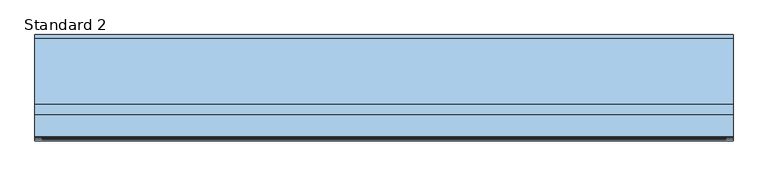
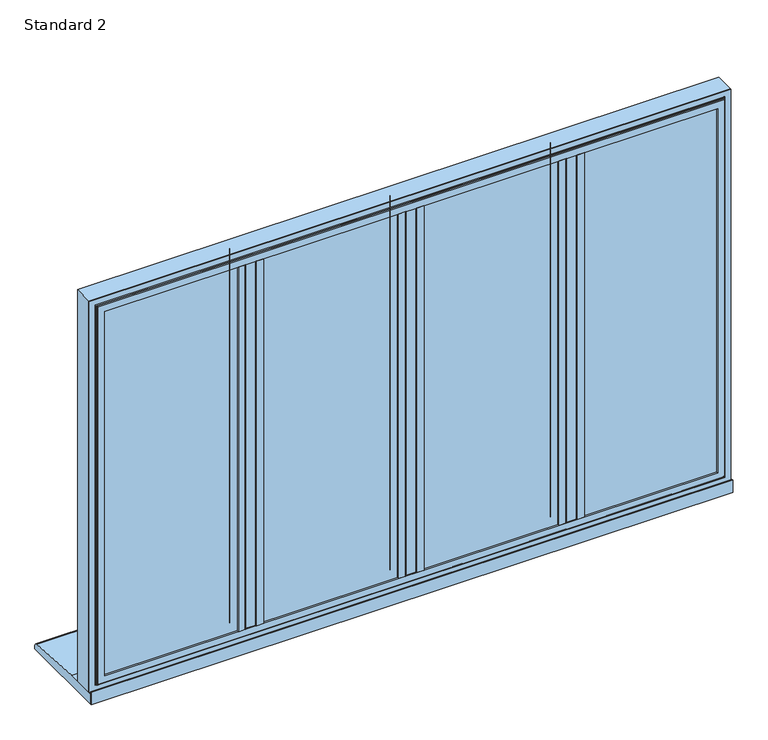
"""IFC4 building model written with IfcOpenShell, lengths in millimetres: window geometry, SMARTS_AlithermHeritage : Standard 2."""

import ifcopenshell
import ifcopenshell.guid

model = None  # the IFC model being written
_history = None  # IfcOwnerHistory: only IFC2X3 demands one
_inside = {}  # id of a spatial element -> (the spatial element, [elements in it])
_under = {}  # id of a project, library or spatial element -> (it, [spatial elements below it])
_declared = {}  # id of a project -> (the project, [libraries it declares])
_typed = {}  # id of a type object -> (the type object, [elements of that type])
_made_of = {}  # id of a material, layer set ... -> (it, [elements and type objects made of it])


def new_model(schema):
    """Start an empty IFC model of exactly this schema.

    Asked for "IFC4X3", IfcOpenShell would pick the latest addendum, in which some entities
    have other attributes; the version numbers below select the first issue.
    IFC2X3 requires an IfcOwnerHistory on every rooted entity: one is made here for all.
    """
    global model, _history
    if schema == "IFC4X3":
        model = ifcopenshell.file(schema_version=(4, 3, 0, 0))
    else:
        model = ifcopenshell.file(schema=schema)
    _inside.clear()
    _under.clear()
    _declared.clear()
    _typed.clear()
    _made_of.clear()
    _history = None
    if model.schema == "IFC2X3":
        org = make("IfcOrganization", Name="unknown")
        user = make(
            "IfcPersonAndOrganization",
            ThePerson=make("IfcPerson", FamilyName="unknown"),
            TheOrganization=org,
        )
        app = make(
            "IfcApplication",
            ApplicationDeveloper=org,
            Version="unknown",
            ApplicationFullName="unknown",
            ApplicationIdentifier="unknown",
        )
        _history = make(
            "IfcOwnerHistory",
            OwningUser=user,
            OwningApplication=app,
            ChangeAction="ADDED",
            CreationDate=0,
        )
    return model


def make(cls, **values):
    """One entity of the class cls with the attributes given. An attribute that is None is left unset."""
    return model.create_entity(
        cls, **{name: value for name, value in values.items() if value is not None}
    )


def rooted(cls, **values):
    """An entity with a GlobalId (a new one), such as an element, a storey or a relation."""
    return make(cls, GlobalId=ifcopenshell.guid.new(), OwnerHistory=_history, **values)


def si_unit(unit_type, name, prefix=None):
    """IfcSIUnit, for example si_unit("LENGTHUNIT", "METRE", prefix="MILLI")."""
    return make("IfcSIUnit", UnitType=unit_type, Prefix=prefix, Name=name)


def assignment(units):
    """IfcUnitAssignment: the units of a project."""
    return None if units is None else make("IfcUnitAssignment", Units=units)


def point(xyz):
    """IfcCartesianPoint."""
    return None if xyz is None else make("IfcCartesianPoint", Coordinates=xyz)


def direction(xyz):
    """IfcDirection."""
    return None if xyz is None else make("IfcDirection", DirectionRatios=xyz)


def frame(location, z_axis=None, x_axis=None):
    """IfcAxis2Placement3D, a coordinate frame: its origin and axes. An axis left out is left unset."""
    return make(
        "IfcAxis2Placement3D",
        Location=point(location),
        Axis=direction(z_axis),
        RefDirection=direction(x_axis),
    )


def frame_2d(location, x_axis=None):
    """IfcAxis2Placement2D, a coordinate frame in the plane: its origin and x axis."""
    return make(
        "IfcAxis2Placement2D", Location=point(location), RefDirection=direction(x_axis)
    )


def origin():
    """The frame at (0, 0, 0) with its axes left unset."""
    return frame((0.0, 0.0, 0.0))


def place(relative_to, where):
    """IfcLocalPlacement: puts the frame where relative to a parent placement (None: the world)."""
    return make(
        "IfcLocalPlacement", PlacementRelTo=relative_to, RelativePlacement=where
    )


def context(
    kind, dimensions, precision=None, world=None, true_north=None, identifier=None
):
    """IfcGeometricRepresentationContext, for example the 3D "Model" context."""
    return make(
        "IfcGeometricRepresentationContext",
        ContextIdentifier=identifier,
        ContextType=kind,
        CoordinateSpaceDimension=dimensions,
        Precision=precision,
        WorldCoordinateSystem=world,
        TrueNorth=true_north,
    )


def project(units=None, contexts=None):
    """IfcProject with its units and contexts."""
    return rooted(
        "IfcProject",
        Name="project",
        RepresentationContexts=contexts,
        UnitsInContext=assignment(units),
    )


def spatial(cls, under=None, at=None, **own):
    """A site, building, storey or space (cls), placed at a placement, below another one or the project."""
    s = rooted(cls, ObjectPlacement=at, **own)
    if under is not None:
        _under.setdefault(under.id(), (under, []))[1].append(s)
    return s


def polyline(points):
    """IfcPolyline through the points."""
    return make("IfcPolyline", Points=[point(p) for p in points])


def circle_curve(where, radius):
    """IfcCircle in the frame where."""
    return make("IfcCircle", Position=where, Radius=radius)


def ellipse_curve(where, semi_axis1, semi_axis2):
    """IfcEllipse in the frame where."""
    return make(
        "IfcEllipse", Position=where, SemiAxis1=semi_axis1, SemiAxis2=semi_axis2
    )


def trimmed(basis, trim1, trim2, sense, master):
    """IfcTrimmedCurve: the piece of a basis curve between two trims."""
    return make(
        "IfcTrimmedCurve",
        BasisCurve=basis,
        Trim1=trim1,
        Trim2=trim2,
        SenseAgreement=sense,
        MasterRepresentation=master,
    )


def segment(curve, same_sense, transition):
    """IfcCompositeCurveSegment."""
    return make(
        "IfcCompositeCurveSegment",
        Transition=transition,
        SameSense=same_sense,
        ParentCurve=curve,
    )


def composite_curve(segments, self_intersect=None):
    """IfcCompositeCurve: segments joined end to end."""
    return make("IfcCompositeCurve", Segments=segments, SelfIntersect=self_intersect)


def outline(outer, holes=None, kind="AREA"):
    """IfcArbitraryClosedProfileDef: a profile drawn as a closed curve; with holes, ...WithVoids."""
    if holes is None:
        return make("IfcArbitraryClosedProfileDef", ProfileType=kind, OuterCurve=outer)
    return make(
        "IfcArbitraryProfileDefWithVoids",
        ProfileType=kind,
        OuterCurve=outer,
        InnerCurves=holes,
    )


def extrude(swept, where, along, depth):
    """IfcExtrudedAreaSolid: the profile swept, set in the frame where, extruded along a direction by depth."""
    return make(
        "IfcExtrudedAreaSolid",
        SweptArea=swept,
        Position=where,
        ExtrudedDirection=direction(along),
        Depth=depth,
    )


def faces_of(points, faces, orient=None, outer=None):
    """IfcFace entities. A face is a list of loops; a loop is a list of indices into points, from 0.

    orient and outer hold one flag for each loop. By default every Orientation is true, the
    first loop of a face is its IfcFaceOuterBound and the others are IfcFaceBound.
    """
    made = []
    for i, loops in enumerate(faces):
        bounds = []
        for j, loop in enumerate(loops):
            is_outer = j == 0 if outer is None else outer[i][j]
            bounds.append(
                make(
                    "IfcFaceOuterBound" if is_outer else "IfcFaceBound",
                    Bound=make("IfcPolyLoop", Polygon=[points[k] for k in loop]),
                    Orientation=True if orient is None else orient[i][j],
                )
            )
        made.append(make("IfcFace", Bounds=bounds))
    return made


def faceted_brep(points, faces, orient=None, outer=None, voids=None):
    """IfcFacetedBrep: a solid bounded by flat faces; with voids (closed shells), ...WithVoids."""
    shared = [point(p) for p in points]
    hull = make("IfcClosedShell", CfsFaces=faces_of(shared, faces, orient, outer))
    if voids is None:
        return make("IfcFacetedBrep", Outer=hull)
    return make(
        "IfcFacetedBrepWithVoids",
        Outer=hull,
        Voids=[
            make(cls, CfsFaces=faces_of(shared, fs, o, b)) for cls, fs, o, b in voids
        ],
    )


def shape(context_of_items, identifier, shape_type, items):
    """IfcShapeRepresentation: the items that make up one representation, for example the "Body"."""
    return make(
        "IfcShapeRepresentation",
        ContextOfItems=context_of_items,
        RepresentationIdentifier=identifier,
        RepresentationType=shape_type,
        Items=items,
    )


def source(mapping_origin, context_of_items, identifier, shape_type, items):
    """IfcRepresentationMap: a shape defined once, which mapped items show again and again."""
    return make(
        "IfcRepresentationMap",
        MappingOrigin=mapping_origin,
        MappedRepresentation=shape(context_of_items, identifier, shape_type, items),
    )


def transform(
    local_origin,
    x_axis=None,
    y_axis=None,
    z_axis=None,
    scale=None,
    scale2=None,
    scale3=None,
    uniform=True,
):
    """IfcCartesianTransformationOperator3D, or its non-uniform kind. x_axis, y_axis, z_axis: its Axis1, 2, 3."""
    if uniform:
        return make(
            "IfcCartesianTransformationOperator3D",
            Axis1=direction(x_axis),
            Axis2=direction(y_axis),
            LocalOrigin=point(local_origin),
            Scale=scale,
            Axis3=direction(z_axis),
        )
    return make(
        "IfcCartesianTransformationOperator3DnonUniform",
        Axis1=direction(x_axis),
        Axis2=direction(y_axis),
        LocalOrigin=point(local_origin),
        Scale=scale,
        Axis3=direction(z_axis),
        Scale2=scale2,
        Scale3=scale3,
    )


def mapped(mapping_source, mapping_target):
    """IfcMappedItem: shows the shape of a source again, moved by a transform."""
    return make(
        "IfcMappedItem", MappingSource=mapping_source, MappingTarget=mapping_target
    )


def made_of(thing, what):
    """Note that an element or type object is made of a material, layer set ...; save() writes the relation."""
    if what is not None:
        _made_of.setdefault(what.id(), (what, []))[1].append(thing)
    return thing


def element(
    cls,
    number,
    at=None,
    inside=None,
    cuts=None,
    type_object=None,
    material=None,
    context=None,
    identifier="Body",
    shape_type=None,
    held_by="IfcProductDefinitionShape",
    body=None,
    shapes=None,
    **own,
):
    """One element of the class cls, such as IfcWall. Its Tag is "e" and its number.

    at: its placement. inside: the storey or other place that contains it. cuts: it is an
    opening in that element (IfcRelVoidsElement). A single representation is given by context,
    identifier, shape_type and body (its items); several are given by shapes. held_by: the class
    of the entity that holds the representations. save() writes the other relations.
    """
    e = rooted(cls, Tag="e%d" % number, ObjectPlacement=at, **own)
    if body is not None:
        shapes = [shape(context, identifier, shape_type, body)]
    if shapes is not None:
        e.Representation = make(held_by, Representations=shapes)
    if inside is not None:
        _inside.setdefault(inside.id(), (inside, []))[1].append(e)
    if cuts is not None:
        rooted(
            "IfcRelVoidsElement", RelatingBuildingElement=cuts, RelatedOpeningElement=e
        )
    if type_object is not None:
        _typed.setdefault(type_object.id(), (type_object, []))[1].append(e)
    return made_of(e, material)


def aggregate(whole, parts):
    """IfcRelAggregates: a whole, such as a stair, and the parts it consists of."""
    return rooted("IfcRelAggregates", RelatingObject=whole, RelatedObjects=parts)


def save(model, path):
    """Write the relations noted so far, then the file.

    IfcRelAggregates (storeys below a building ...), IfcRelContainedInSpatialStructure (elements
    in a storey), IfcRelDefinesByType, IfcRelAssociatesMaterial and IfcRelDeclares: one each for
    every whole, place, type object, material and project.
    """
    for whole, parts in _under.values():
        aggregate(whole, parts)
    for where, things in _inside.values():
        rooted(
            "IfcRelContainedInSpatialStructure",
            RelatedElements=things,
            RelatingStructure=where,
        )
    for kind, things in _typed.values():
        rooted("IfcRelDefinesByType", RelatedObjects=things, RelatingType=kind)
    for what, things in _made_of.values():
        rooted("IfcRelAssociatesMaterial", RelatedObjects=things, RelatingMaterial=what)
    for by, libraries in _declared.values():
        rooted("IfcRelDeclares", RelatingContext=by, RelatedDefinitions=libraries)
    model.write(path)


def plane_surface(at):
    """IfcPlane: the flat surface through the origin of the frame at, square to its z axis."""
    return make("IfcPlane", Position=at)


def cylinder_surface(at, radius):
    """IfcCylindricalSurface: all points at the distance radius from the z axis of the frame at."""
    return make("IfcCylindricalSurface", Position=at, Radius=radius)


def revolved_surface(curve, axis_point, axis_direction):
    """IfcSurfaceOfRevolution: the curve turned about the line through axis_point along axis_direction."""
    return make(
        "IfcSurfaceOfRevolution",
        SweptCurve=make("IfcArbitraryOpenProfileDef", ProfileType="CURVE", Curve=curve),
        AxisPosition=make("IfcAxis1Placement", Location=point(axis_point), Axis=direction(axis_direction)),
    )


def advanced_brep(points, edges, surfaces, faces):
    """IfcAdvancedBrep: a solid bounded by faces that lie on surfaces and meet in shared edges.

    An edge is (start, end): straight between two places in points (the first is 0);
    or (start, end, curve); or (start, end, curve, False) where it runs against its curve.
    A face is (place in surfaces, loops), or (place, loops, False) where it looks against
    its surface's normal. A loop lists edges by number (the first is 1), with a minus sign
    where the edge is run from its end to its start. The first loop is the outer one.
    """
    corners = [point(p) for p in points]
    vertices = [make("IfcVertexPoint", VertexGeometry=c) for c in corners]
    made = []
    for start, end, *more in edges:
        made.append(
            make(
                "IfcEdgeCurve",
                EdgeStart=vertices[start],
                EdgeEnd=vertices[end],
                EdgeGeometry=more[0] if more else make("IfcPolyline", Points=[corners[start], corners[end]]),
                SameSense=more[1] if len(more) > 1 else True,
            )
        )
    hull = []
    for where, loops, *sense in faces:
        bounds = []
        for j, loop in enumerate(loops):
            ring = [make("IfcOrientedEdge", EdgeElement=made[abs(k) - 1], Orientation=k > 0) for k in loop]
            bounds.append(
                make(
                    "IfcFaceOuterBound" if j == 0 else "IfcFaceBound",
                    Bound=make("IfcEdgeLoop", EdgeList=ring),
                    Orientation=True,
                )
            )
        hull.append(make("IfcAdvancedFace", Bounds=bounds, FaceSurface=surfaces[where], SameSense=sense[0] if sense else True))
    return make("IfcAdvancedBrep", Outer=make("IfcClosedShell", CfsFaces=hull))


def standard_2_e56fe06b(model_context):
    return source(origin(), model_context, "Body", "SolidModel", [
        extrude(outline(polyline([(-383.6941456, 95.2798432), (-356.3058544, 95.2798432), (-356.3058544, 47.279476), (-383.6941456, 47.279476), (-383.6941456, 95.2798432)])), frame((0.0, 0.0, 652.6941456), z_axis=(0.0, 0.0, 1.0), x_axis=(1.0, 0.0, 0.0)), (0.0, 0.0, 1.0), 919.6117089),
        extrude(outline(composite_curve([segment(polyline([(-399.0, 47.279476), (-341.0, 47.279476), (-341.0, 43.2798432), (-357.0, 43.2798432)]), True, "CONTINUOUS"), segment(trimmed(circle_curve(frame_2d((-357.0, 44.2798432)), 1.0), [point((-357.0, 43.2798432))], [point((-358.0, 44.2798432))], False, "CARTESIAN"), True, "CONTINUOUS"), segment(polyline([(-358.0, 44.2798432), (-358.0, 45.7798432), (-382.0, 45.7798432), (-382.0, 44.2798432)]), True, "CONTINUOUS"), segment(trimmed(circle_curve(frame_2d((-383.0, 44.2798432)), 1.0), [point((-382.0, 44.2798432))], [point((-383.0, 43.2798432))], False, "CARTESIAN"), True, "CONTINUOUS"), segment(polyline([(-383.0, 43.2798432), (-399.0, 43.2798432), (-399.0, 47.279476)]), True, "CONTINUOUS")], self_intersect=False)), frame((0.0, 0.0, 668.0), z_axis=(0.0, 0.0, 1.0), x_axis=(1.0, 0.0, 0.0)), (0.0, 0.0, 1.0), 889.0),
        extrude(outline(polyline([(-13.6941456, 95.2798432), (13.6941456, 95.2798432), (13.6941456, 47.279476), (-13.6941456, 47.279476), (-13.6941456, 95.2798432)])), frame((0.0, 0.0, 652.6941456), z_axis=(0.0, 0.0, 1.0), x_axis=(1.0, 0.0, 0.0)), (0.0, 0.0, 1.0), 919.6117089),
        extrude(outline(composite_curve([segment(polyline([(-29.0, 47.279476), (29.0, 47.279476), (29.0, 43.2798432), (13.0, 43.2798432)]), True, "CONTINUOUS"), segment(trimmed(circle_curve(frame_2d((13.0, 44.2798432)), 1.0), [point((13.0, 43.2798432))], [point((12.0, 44.2798432))], False, "CARTESIAN"), True, "CONTINUOUS"), segment(polyline([(12.0, 44.2798432), (12.0, 45.7798432), (-12.0, 45.7798432), (-12.0, 44.2798432)]), True, "CONTINUOUS"), segment(trimmed(circle_curve(frame_2d((-13.0, 44.2798432)), 1.0), [point((-12.0, 44.2798432))], [point((-13.0, 43.2798432))], False, "CARTESIAN"), True, "CONTINUOUS"), segment(polyline([(-13.0, 43.2798432), (-29.0, 43.2798432), (-29.0, 47.279476)]), True, "CONTINUOUS")], self_intersect=False)), frame((0.0, 0.0, 668.0), z_axis=(0.0, 0.0, 1.0), x_axis=(1.0, 0.0, 0.0)), (0.0, 0.0, 1.0), 889.0),
        extrude(outline(polyline([(356.3058544, 95.2798432), (383.6941456, 95.2798432), (383.6941456, 47.279476), (356.3058544, 47.279476), (356.3058544, 95.2798432)])), frame((0.0, 0.0, 652.6941456), z_axis=(0.0, 0.0, 1.0), x_axis=(1.0, 0.0, 0.0)), (0.0, 0.0, 1.0), 919.6117089),
        extrude(outline(composite_curve([segment(polyline([(341.0, 47.279476), (399.0, 47.279476), (399.0, 43.2798432), (383.0, 43.2798432)]), True, "CONTINUOUS"), segment(trimmed(circle_curve(frame_2d((383.0, 44.2798432)), 1.0), [point((383.0, 43.2798432))], [point((382.0, 44.2798432))], False, "CARTESIAN"), True, "CONTINUOUS"), segment(polyline([(382.0, 44.2798432), (382.0, 45.7798432), (358.0, 45.7798432), (358.0, 44.2798432)]), True, "CONTINUOUS"), segment(trimmed(circle_curve(frame_2d((357.0, 44.2798432)), 1.0), [point((358.0, 44.2798432))], [point((357.0, 43.2798432))], False, "CARTESIAN"), True, "CONTINUOUS"), segment(polyline([(357.0, 43.2798432), (341.0, 43.2798432), (341.0, 47.279476)]), True, "CONTINUOUS")], self_intersect=False)), frame((0.0, 0.0, 668.0), z_axis=(0.0, 0.0, 1.0), x_axis=(1.0, 0.0, 0.0)), (0.0, 0.0, 1.0), 889.0),
        extrude(outline(polyline([(-717.0, 75.2798432), (-389.0, 75.2798432), (-389.0, 71.2798432), (-717.0, 71.2798432), (-717.0, 75.2798432)])), frame((0.0, 0.0, 658.0), z_axis=(0.0, 0.0, 1.0), x_axis=(1.0, 0.0, 0.0)), (0.0, 0.0, 1.0), 909.0),
        extrude(outline(polyline([(-717.0, 55.2798432), (-389.0, 55.2798432), (-389.0, 51.2798432), (-717.0, 51.2798432), (-717.0, 55.2798432)])), frame((0.0, 0.0, 658.0), z_axis=(0.0, 0.0, 1.0), x_axis=(1.0, 0.0, 0.0)), (0.0, 0.0, 1.0), 909.0),
        extrude(outline(polyline([(1567.0, -717.0), (658.0, -717.0), (658.0, -389.0), (1567.0, -389.0), (1567.0, -717.0)]), holes=[polyline([(1557.0, -399.0), (668.0, -399.0), (668.0, -707.0), (1557.0, -707.0), (1557.0, -399.0)])]), frame((0.0, 55.2798432, 0.0), z_axis=(0.0, 1.0, 0.0), x_axis=(0.0, 0.0, 1.0)), (0.0, 0.0, 1.0), 16.0),
        faceted_brep([(-389.1851151, 95.2798432, 1566.8148849), (-399.0, 78.2798098, 1557.0), (-707.0, 78.2798098, 1557.0), (-716.8148849, 95.2798432, 1566.8148849), (-383.6297324, 78.2798098, 1572.3702676), (-383.6297324, 95.2798432, 1572.3702676), (-722.3702676, 95.2798432, 1572.3702676), (-722.3702676, 78.2798098, 1572.3702676), (-722.3702676, 78.2798098, 652.6297324), (-722.3702676, 95.2798432, 652.6297324), (-383.6297324, 95.2798432, 652.6297324), (-383.6297324, 78.2798098, 652.6297324), (-716.8148849, 95.2798432, 658.1851151), (-389.1851151, 95.2798432, 658.1851151), (-399.0, 78.2798098, 668.0), (-707.0, 78.2798098, 668.0)], [[[0, 1, 2, 3]], [[4, 5, 6, 7]], [[8, 9, 10, 11]], [[5, 10, 9, 6], [3, 12, 13, 0]], [[7, 8, 11, 4], [1, 14, 15, 2]], [[3, 2, 15, 12]], [[7, 6, 9, 8]], [[12, 15, 14, 13]], [[13, 14, 1, 0]], [[11, 10, 5, 4]]]),
        extrude(outline(polyline([(-351.0, 75.2798432), (-19.0, 75.2798432), (-19.0, 71.2798432), (-351.0, 71.2798432), (-351.0, 75.2798432)])), frame((0.0, 0.0, 658.0), z_axis=(0.0, 0.0, 1.0), x_axis=(1.0, 0.0, 0.0)), (0.0, 0.0, 1.0), 909.0),
        extrude(outline(polyline([(-351.0, 55.2798432), (-19.0, 55.2798432), (-19.0, 51.2798432), (-351.0, 51.2798432), (-351.0, 55.2798432)])), frame((0.0, 0.0, 658.0), z_axis=(0.0, 0.0, 1.0), x_axis=(1.0, 0.0, 0.0)), (0.0, 0.0, 1.0), 909.0),
        extrude(outline(polyline([(1567.0, -351.0), (658.0, -351.0), (658.0, -19.0), (1567.0, -19.0), (1567.0, -351.0)]), holes=[polyline([(1557.0, -29.0), (668.0, -29.0), (668.0, -341.0), (1557.0, -341.0), (1557.0, -29.0)])]), frame((0.0, 55.2798432, 0.0), z_axis=(0.0, 1.0, 0.0), x_axis=(0.0, 0.0, 1.0)), (0.0, 0.0, 1.0), 16.0),
        faceted_brep([(-19.1851151, 95.2798432, 1566.8148849), (-29.0, 78.2798098, 1557.0), (-341.0, 78.2798098, 1557.0), (-350.8148849, 95.2798432, 1566.8148849), (-13.6297324, 78.2798098, 1572.3702676), (-13.6297324, 95.2798432, 1572.3702676), (-356.3702676, 95.2798432, 1572.3702676), (-356.3702676, 78.2798098, 1572.3702676), (-356.3702676, 78.2798098, 652.6297324), (-356.3702676, 95.2798432, 652.6297324), (-13.6297324, 95.2798432, 652.6297324), (-13.6297324, 78.2798098, 652.6297324), (-350.8148849, 95.2798432, 658.1851151), (-19.1851151, 95.2798432, 658.1851151), (-29.0, 78.2798098, 668.0), (-341.0, 78.2798098, 668.0)], [[[0, 1, 2, 3]], [[4, 5, 6, 7]], [[8, 9, 10, 11]], [[5, 10, 9, 6], [3, 12, 13, 0]], [[7, 8, 11, 4], [1, 14, 15, 2]], [[3, 2, 15, 12]], [[7, 6, 9, 8]], [[12, 15, 14, 13]], [[13, 14, 1, 0]], [[11, 10, 5, 4]]]),
        extrude(outline(polyline([(19.0, 75.2798432), (351.0, 75.2798432), (351.0, 71.2798432), (19.0, 71.2798432), (19.0, 75.2798432)])), frame((0.0, 0.0, 658.0), z_axis=(0.0, 0.0, 1.0), x_axis=(1.0, 0.0, 0.0)), (0.0, 0.0, 1.0), 909.0),
        extrude(outline(polyline([(19.0, 55.2798432), (351.0, 55.2798432), (351.0, 51.2798432), (19.0, 51.2798432), (19.0, 55.2798432)])), frame((0.0, 0.0, 658.0), z_axis=(0.0, 0.0, 1.0), x_axis=(1.0, 0.0, 0.0)), (0.0, 0.0, 1.0), 909.0),
        extrude(outline(polyline([(1567.0, 19.0), (658.0, 19.0), (658.0, 351.0), (1567.0, 351.0), (1567.0, 19.0)]), holes=[polyline([(1557.0, 341.0), (668.0, 341.0), (668.0, 29.0), (1557.0, 29.0), (1557.0, 341.0)])]), frame((0.0, 55.2798432, 0.0), z_axis=(0.0, 1.0, 0.0), x_axis=(0.0, 0.0, 1.0)), (0.0, 0.0, 1.0), 16.0),
        faceted_brep([(350.8148849, 95.2798432, 1566.8148849), (341.0, 78.2798098, 1557.0), (29.0, 78.2798098, 1557.0), (19.1851151, 95.2798432, 1566.8148849), (356.3702676, 78.2798098, 1572.3702676), (356.3702676, 95.2798432, 1572.3702676), (13.6297324, 95.2798432, 1572.3702676), (13.6297324, 78.2798098, 1572.3702676), (13.6297324, 78.2798098, 652.6297324), (13.6297324, 95.2798432, 652.6297324), (356.3702676, 95.2798432, 652.6297324), (356.3702676, 78.2798098, 652.6297324), (19.1851151, 95.2798432, 658.1851151), (350.8148849, 95.2798432, 658.1851151), (341.0, 78.2798098, 668.0), (29.0, 78.2798098, 668.0)], [[[0, 1, 2, 3]], [[4, 5, 6, 7]], [[8, 9, 10, 11]], [[5, 10, 9, 6], [3, 12, 13, 0]], [[7, 8, 11, 4], [1, 14, 15, 2]], [[3, 2, 15, 12]], [[7, 6, 9, 8]], [[12, 15, 14, 13]], [[13, 14, 1, 0]], [[11, 10, 5, 4]]]),
        extrude(outline(polyline([(1590.0, 740.0), (1590.0, -740.0), (635.0, -740.0), (635.0, 740.0), (1590.0, 740.0)]), holes=[polyline([(652.7000182, 722.2999818), (652.7000182, -722.2999818), (1572.2999818, -722.2999818), (1572.2999818, 722.2999818), (652.7000182, 722.2999818)])]), frame((0.0, 50.279857, 0.0), z_axis=(0.0, 1.0, 0.0), x_axis=(0.0, 0.0, 1.0)), (0.0, 0.0, 1.0), 44.9999962),
        advanced_brep(
        [(707.0, 43.2798432, 1557.0), (707.0, 47.2798432, 1557.0), (707.0, 47.2798432, 668.0), (707.0, 43.2798432, 668.0), (740.0, 50.279857, 1590.0), (740.0, 48.279857, 1590.0), (740.0, 48.279857, 635.0), (740.0, 50.279857, 635.0), (722.4999818, 43.2798432, 1572.4999818), (-722.4999818, 43.2798432, 1572.4999818), (-722.4999818, 43.2798432, 652.5000182), (722.4999818, 43.2798432, 652.5000182), (-707.0, 43.2798432, 668.0), (-707.0, 43.2798432, 1557.0), (-740.0, 50.279857, 1590.0), (-740.0, 48.279857, 1590.0), (-740.0, 50.279857, 635.0), (722.2999818, 50.279857, 1572.2999818), (-722.2999818, 50.279857, 1572.2999818), (-722.2999818, 50.279857, 652.7000182), (722.2999818, 50.279857, 652.7000182), (-707.0, 47.2798432, 1557.0), (-707.0, 47.2798432, 668.0), (-740.0, 48.279857, 635.0), (-722.2999818, 47.2798432, 1572.2999818), (722.2999818, 47.2798432, 1572.2999818), (722.2999818, 47.2798432, 652.7000182), (724.4999818, 46.779857, 650.5000182), (724.4999818, 45.2798432, 650.5000182), (-724.4999818, 45.2798432, 650.5000182), (-724.4999818, 46.779857, 650.5000182), (724.4999818, 46.779857, 1574.4999818), (724.4999818, 45.2798432, 1574.4999818), (-722.2999818, 47.2798432, 652.7000182), (-724.4999818, 45.2798432, 1574.4999818), (-724.4999818, 46.779857, 1574.4999818), (725.9999818, 48.279857, 1575.9999818), (725.9999818, 48.279857, 649.0000182), (-725.9999818, 48.279857, 649.0000182), (-725.9999818, 48.279857, 1575.9999818)],
        [
            (0, 1),
            (1, 2),
            (2, 3),
            (3, 0),
            (4, 5),
            (5, 6),
            (6, 7),
            (7, 4),
            (8, 9),
            (9, 10),
            (10, 11),
            (11, 8),
            (3, 12),
            (12, 13),
            (13, 0),
            (14, 15),
            (15, 5),
            (4, 14),
            (7, 16),
            (16, 14),
            (17, 18),
            (18, 19),
            (19, 20),
            (20, 17),
            (13, 21),
            (21, 1),
            (2, 22),
            (22, 12),
            (22, 21),
            (6, 23),
            (23, 16),
            (23, 15),
            (24, 18),
            (17, 25),
            (25, 24),
            (20, 26),
            (26, 25),
            (27, 28),
            (28, 29),
            (29, 30),
            (30, 27),
            (31, 32),
            (32, 28),
            (27, 31),
            (19, 33),
            (33, 26),
            (24, 33),
            (29, 34),
            (34, 35),
            (35, 30),
            (34, 32),
            (31, 35),
            (36, 31, ellipse_curve(frame((725.9999818, 46.779857, 1575.9999818), z_axis=(-0.7071067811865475, 0.0, 0.7071067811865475), x_axis=(-0.7071067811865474, 0.0, -0.7071067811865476)), 2.1213203, 1.5)),
            (27, 37, ellipse_curve(frame((725.9999818, 46.779857, 649.0000182), z_axis=(-0.7071067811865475, 0.0, -0.7071067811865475), x_axis=(0.7071067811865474, 0.0, -0.7071067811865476)), 2.1213203, 1.5)),
            (37, 36),
            (30, 38, ellipse_curve(frame((-725.9999818, 46.779857, 649.0000182), z_axis=(-0.7071067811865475, 0.0, 0.7071067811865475), x_axis=(-0.7071067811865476, 0.0, -0.7071067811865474)), 2.1213203, 1.5)),
            (38, 37),
            (35, 39, ellipse_curve(frame((-725.9999818, 46.779857, 1575.9999818), z_axis=(0.7071067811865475, 0.0, 0.7071067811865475), x_axis=(-0.7071067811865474, 0.0, 0.7071067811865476)), 2.1213203, 1.5)),
            (39, 38),
            (36, 39),
            (32, 8, ellipse_curve(frame((722.4999818, 45.2798432, 1572.4999818), z_axis=(0.7071067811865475, 0.0, -0.7071067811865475), x_axis=(0.7071067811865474, 0.0, 0.7071067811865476)), 2.8284271, 2.0)),
            (11, 28, ellipse_curve(frame((722.4999818, 45.2798432, 652.5000182), z_axis=(0.7071067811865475, 0.0, 0.7071067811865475), x_axis=(-0.7071067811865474, 0.0, 0.7071067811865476)), 2.8284271, 2.0)),
            (10, 29, ellipse_curve(frame((-722.4999818, 45.2798432, 652.5000182), z_axis=(0.7071067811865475, 0.0, -0.7071067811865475), x_axis=(0.7071067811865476, 0.0, 0.7071067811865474)), 2.8284271, 2.0)),
            (9, 34, ellipse_curve(frame((-722.4999818, 45.2798432, 1572.4999818), z_axis=(-0.7071067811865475, 0.0, -0.7071067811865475), x_axis=(0.7071067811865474, 0.0, -0.7071067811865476)), 2.8284271, 2.0)),
        ],
        [
            plane_surface(frame((707.0, 47.2798432, 1557.0), z_axis=(-1.0, 0.0, 0.0), x_axis=(0.0, 0.0, -1.0))),
            plane_surface(frame((740.0, 48.279857, 1590.0), z_axis=(1.0, 0.0, 0.0), x_axis=(0.0, 0.0, -1.0))),
            plane_surface(frame((-707.0, 43.2798432, 1557.0), z_axis=(0.0, -1.0, 0.0), x_axis=(1.0, 0.0, 0.0))),
            plane_surface(frame((-740.0, 48.279857, 1590.0), z_axis=(0.0, 0.0, 1.0), x_axis=(1.0, 0.0, 0.0))),
            plane_surface(frame((-740.0, 50.279857, 1590.0), z_axis=(0.0, 1.0, 0.0), x_axis=(1.0, 0.0, 0.0))),
            plane_surface(frame((-707.0, 47.2798432, 1557.0), z_axis=(0.0, 0.0, -1.0), x_axis=(1.0, 0.0, 0.0))),
            plane_surface(frame((707.0, 47.2798432, 668.0), z_axis=(0.0, 0.0, 1.0), x_axis=(-1.0, 0.0, 0.0))),
            plane_surface(frame((-707.0, 47.2798432, 668.0), z_axis=(1.0, 0.0, 0.0), x_axis=(0.0, 0.0, 1.0))),
            plane_surface(frame((740.0, 48.279857, 635.0), z_axis=(0.0, 0.0, -1.0), x_axis=(-1.0, 0.0, 0.0))),
            plane_surface(frame((-740.0, 48.279857, 635.0), z_axis=(-1.0, 0.0, 0.0), x_axis=(0.0, 0.0, 1.0))),
            plane_surface(frame((-722.2999818, 50.279857, 1572.2999818), z_axis=(0.0, 0.0, -1.0), x_axis=(1.0, 0.0, 0.0))),
            plane_surface(frame((722.2999818, 50.279857, 1572.2999818), z_axis=(-1.0, 0.0, 0.0), x_axis=(0.0, 0.0, -1.0))),
            plane_surface(frame((724.4999818, 45.2798432, 650.5000182), z_axis=(0.0, 0.0, -1.0), x_axis=(-1.0, 0.0, 0.0))),
            plane_surface(frame((724.4999818, 45.2798432, 1574.4999818), z_axis=(1.0, 0.0, 0.0), x_axis=(0.0, 0.0, -1.0))),
            plane_surface(frame((722.2999818, 50.279857, 652.7000182), z_axis=(0.0, 0.0, 1.0), x_axis=(-1.0, 0.0, 0.0))),
            plane_surface(frame((-722.2999818, 50.279857, 652.7000182), z_axis=(1.0, 0.0, 0.0), x_axis=(0.0, 0.0, 1.0))),
            plane_surface(frame((-724.4999818, 45.2798432, 650.5000182), z_axis=(-1.0, 0.0, 0.0), x_axis=(0.0, 0.0, 1.0))),
            plane_surface(frame((-722.2999818, 47.2798432, 1572.2999818), z_axis=(0.0, 1.0, 0.0), x_axis=(1.0, 0.0, 0.0))),
            plane_surface(frame((-724.4999818, 45.2798432, 1574.4999818), z_axis=(0.0, 0.0, 1.0), x_axis=(1.0, 0.0, 0.0))),
            revolved_surface(polyline([(724.4999818, 46.779857, 647.5000182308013), (724.4999818, 46.779857, 1577.4999817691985)]), (725.9999818, 46.779857, 1590.0), (0.0, 0.0, -1.0)),
            revolved_surface(polyline([(-727.4999817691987, 46.779857, 650.5000182), (727.4999817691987, 46.779857, 650.5000182)]), (740.0, 46.779857, 649.0000182), (-1.0, 0.0, 0.0)),
            revolved_surface(polyline([(-724.4999818, 46.779857, 1577.4999817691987), (-724.4999818, 46.779857, 647.5000182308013)]), (-725.9999818, 46.779857, 635.0), (0.0, 0.0, 1.0)),
            revolved_surface(polyline([(727.4999817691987, 46.779857, 1574.4999818), (-727.4999817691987, 46.779857, 1574.4999818)]), (-740.0, 46.779857, 1575.9999818), (1.0, 0.0, 0.0)),
            plane_surface(frame((-725.9999818, 48.279857, 1575.9999818), z_axis=(0.0, -1.0, 0.0), x_axis=(1.0, 0.0, 0.0))),
            cylinder_surface(frame((722.4999818, 45.2798432, 1590.0), z_axis=(0.0, 0.0, 1.0), x_axis=(-1.0, 0.0, 0.0)), 2.0),
            cylinder_surface(frame((740.0, 45.2798432, 652.5000182), z_axis=(1.0, 0.0, 0.0), x_axis=(0.0, 0.0, 1.0)), 2.0),
            cylinder_surface(frame((-722.4999818, 45.2798432, 635.0), z_axis=(0.0, 0.0, -1.0), x_axis=(1.0, 0.0, 0.0)), 2.0),
            cylinder_surface(frame((-740.0, 45.2798432, 1572.4999818), z_axis=(-1.0, 0.0, 0.0), x_axis=(0.0, 0.0, -1.0)), 2.0),
        ],
        [
            (0, [[1, 2, 3, 4]]),
            (1, [[5, 6, 7, 8]]),
            (2, [[9, 10, 11, 12], [13, 14, 15, -4]]),
            (3, [[16, 17, -5, 18]]),
            (4, [[19, 20, -18, -8], [21, 22, 23, 24]]),
            (5, [[25, 26, -1, -15]]),
            (6, [[-3, 27, 28, -13]]),
            (7, [[-28, 29, -25, -14]]),
            (8, [[-7, 30, 31, -19]]),
            (9, [[-31, 32, -16, -20]]),
            (10, [[33, -21, 34, 35]]),
            (11, [[-34, -24, 36, 37]]),
            (12, [[38, 39, 40, 41]]),
            (13, [[42, 43, -38, 44]]),
            (14, [[-36, -23, 45, 46]]),
            (15, [[-45, -22, -33, 47]]),
            (16, [[-40, 48, 49, 50]]),
            (17, [[-46, -47, -35, -37], [-26, -29, -27, -2]]),
            (18, [[-49, 51, -42, 52]]),
            (19, [[53, -44, 54, 55]]),
            (20, [[-54, -41, 56, 57]]),
            (21, [[-56, -50, 58, 59]]),
            (22, [[-58, -52, -53, 60]]),
            (23, [[-17, -32, -30, -6], [-57, -59, -60, -55]]),
            (24, [[61, -12, 62, -43]]),
            (25, [[-62, -11, 63, -39]]),
            (26, [[-63, -10, 64, -48]]),
            (27, [[-64, -9, -61, -51]]),
        ],
    ),
        extrude(outline(polyline([(389.0, 75.2798432), (717.0, 75.2798432), (717.0, 71.2798432), (389.0, 71.2798432), (389.0, 75.2798432)])), frame((0.0, 0.0, 658.0), z_axis=(0.0, 0.0, 1.0), x_axis=(1.0, 0.0, 0.0)), (0.0, 0.0, 1.0), 909.0),
        extrude(outline(polyline([(389.0, 55.2798432), (717.0, 55.2798432), (717.0, 51.2798432), (389.0, 51.2798432), (389.0, 55.2798432)])), frame((0.0, 0.0, 658.0), z_axis=(0.0, 0.0, 1.0), x_axis=(1.0, 0.0, 0.0)), (0.0, 0.0, 1.0), 909.0),
        extrude(outline(polyline([(1567.0, 389.0), (658.0, 389.0), (658.0, 717.0), (1567.0, 717.0), (1567.0, 389.0)]), holes=[polyline([(1557.0, 707.0), (668.0, 707.0), (668.0, 399.0), (1557.0, 399.0), (1557.0, 707.0)])]), frame((0.0, 55.2798432, 0.0), z_axis=(0.0, 1.0, 0.0), x_axis=(0.0, 0.0, 1.0)), (0.0, 0.0, 1.0), 16.0),
        faceted_brep([(716.8148849, 95.2798432, 1566.8148849), (707.0, 78.2798098, 1557.0), (399.0, 78.2798098, 1557.0), (389.1851151, 95.2798432, 1566.8148849), (722.3702676, 78.2798098, 1572.3702676), (722.3702676, 95.2798432, 1572.3702676), (383.6297324, 95.2798432, 1572.3702676), (383.6297324, 78.2798098, 1572.3702676), (383.6297324, 78.2798098, 652.6297324), (383.6297324, 95.2798432, 652.6297324), (722.3702676, 95.2798432, 652.6297324), (722.3702676, 78.2798098, 652.6297324), (389.1851151, 95.2798432, 658.1851151), (716.8148849, 95.2798432, 658.1851151), (707.0, 78.2798098, 668.0), (399.0, 78.2798098, 668.0)], [[[0, 1, 2, 3]], [[4, 5, 6, 7]], [[8, 9, 10, 11]], [[5, 10, 9, 6], [3, 12, 13, 0]], [[7, 8, 11, 4], [1, 14, 15, 2]], [[3, 2, 15, 12]], [[7, 6, 9, 8]], [[12, 15, 14, 13]], [[13, 14, 1, 0]], [[11, 10, 5, 4]]]),
        extrude(outline(polyline([(740.0, 43.2798432), (740.0, 40.7798432), (-740.0, 40.7798432), (-740.0, 43.2798432), (740.0, 43.2798432)])), frame((0.0, 0.0, 610.0), z_axis=(0.0, 0.0, 1.0), x_axis=(1.0, 0.0, 0.0)), (0.0, 0.0, 1.0), 31.0),
        extrude(outline(composite_curve([segment(polyline([(265.7798432, 610.0), (43.2798432, 610.0), (43.2798432, 635.0), (118.7798432, 635.0), (258.4770891, 625.9276664)]), True, "CONTINUOUS"), segment(trimmed(circle_curve(frame_2d((257.7798432, 617.9581088)), 8.0), [point((258.4770891, 625.9276664))], [point((265.7798432, 617.9581088))], False, "CARTESIAN"), True, "CONTINUOUS"), segment(polyline([(265.7798432, 617.9581088), (265.7798432, 610.0)]), True, "CONTINUOUS")], self_intersect=False)), frame((-740.0, 0.0, 0.0), z_axis=(1.0, 0.0, 0.0), x_axis=(0.0, 1.0, 0.0)), (0.0, 0.0, 1.0), 1480.0),
    ])


if __name__ == "__main__":
    model = new_model("IFC4")
    model_context = context("Model", 3, world=origin())
    ifc_project = project(units=[si_unit("LENGTHUNIT", "METRE", prefix="MILLI")], contexts=[model_context])
    site = spatial("IfcSite", under=ifc_project)
    building = spatial("IfcBuilding", under=site)
    placement = place(None, origin())
    standard_2_shape = standard_2_e56fe06b(model_context)
    element("IfcWindow", 1, ObjectType="SMARTS_AlithermHeritage : Standard 2", at=placement, inside=building, context=model_context, shape_type="MappedRepresentation", body=[
        mapped(standard_2_shape, transform((0.0, 0.0, 0.0), x_axis=(1.0, 0.0, 0.0), y_axis=(0.0, 1.0, 0.0), z_axis=(0.0, 0.0, 1.0))),
    ])
    save(model, "model.ifc")
